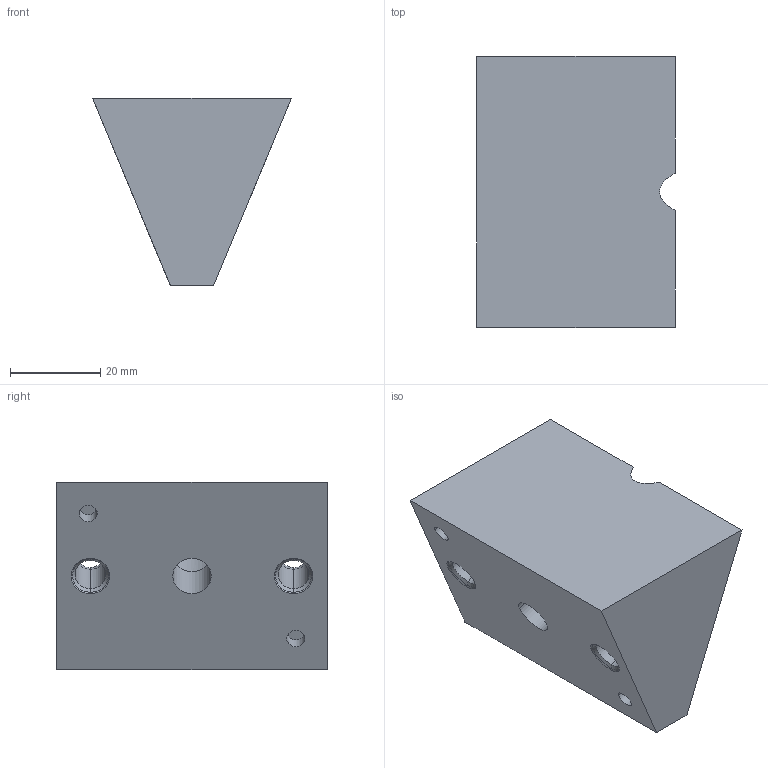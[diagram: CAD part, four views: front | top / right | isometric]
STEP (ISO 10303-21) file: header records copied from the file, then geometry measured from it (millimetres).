
FILE_DESCRIPTION((''),'2;1');
FILE_NAME('GIA4560','2002-12-27T',('Lipro doo'),('Lipro d.o.o.'),'PRO/ENGINEER BY PARAMETRIC TECHNOLOGY CORPORATION, 2001150','PRO/ENGINEER BY PARAMETRIC TECHNOLOGY CORPORATION, 2001150','');
FILE_SCHEMA(('CONFIG_CONTROL_DESIGN'));
Length unit declared in the file: millimetre
Products named in the file (1): GIA4560
Bounding box: 44 x 60 x 41.57 mm (x, y, z)
Volume: 60429.4 mm3; surface area: 14340.4 mm2
Topology: 1 solids, 5 shells, 49 faces, 121 edges, 80 vertices
Faces by surface type: cylinder 24, plane 13, cone 12
Entity records: 1594 total; most frequent: CARTESIAN_POINT 345, DIRECTION 269, ORIENTED_EDGE 226, EDGE_CURVE 121, AXIS2_PLACEMENT_3D 112, VERTEX_POINT 80, CIRCLE 62, EDGE_LOOP 61
